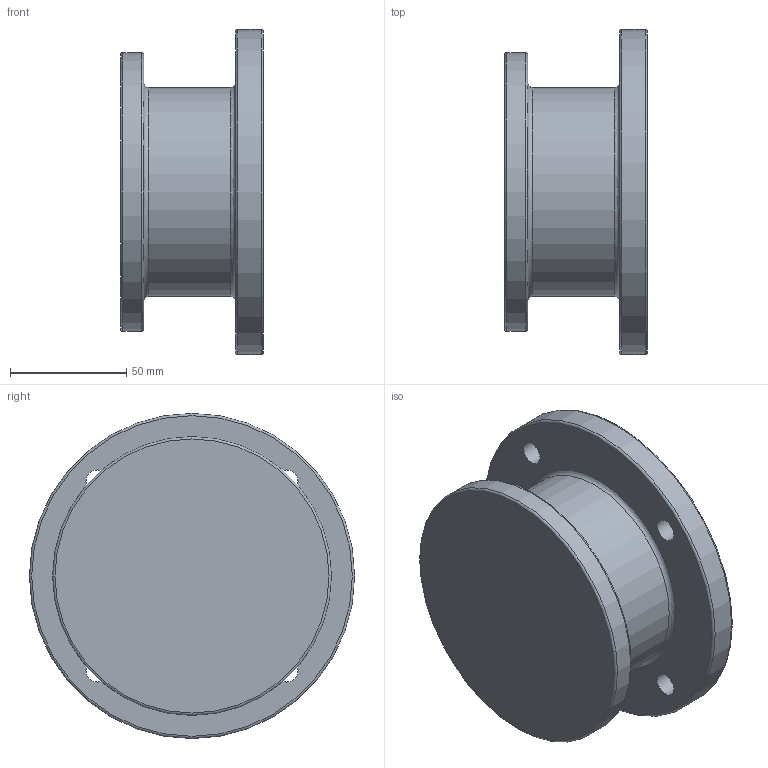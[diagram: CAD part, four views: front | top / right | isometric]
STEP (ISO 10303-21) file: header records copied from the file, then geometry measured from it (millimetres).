
FILE_DESCRIPTION((''),'2;1');
FILE_NAME('D:\PAWEŁ\ZLECENIA\2011 DualSystem\Przekładnie DR\DR30\STEP\63_B5_L61,5.stp','2012-06-11T11:52:08',('admin'),(''),'Autodesk Inventor 2009','Autodesk Inventor 2009','');
FILE_SCHEMA(('AUTOMOTIVE_DESIGN { 1 0 10303 214 1 1 1 1 }'));
Length unit declared in the file: millimetre
Products named in the file (1): 63_B5_L61,5
Bounding box: 61.5 x 140 x 140 mm (x, y, z)
Volume: 305077.5 mm3; surface area: 75936.4 mm2
Topology: 1 solids, 1 shells, 31 faces, 60 edges, 37 vertices
Faces by surface type: plane 12, cylinder 8, bspline 6, torus 5
Full cylindrical faces by diameter (mm): 25 x1, 78 x1, 90 x2, 120 x1, 140 x1
Entity records: 906 total; most frequent: CARTESIAN_POINT 268, DIRECTION 126, ORIENTED_EDGE 86, EDGE_LOOP 62, AXIS2_PLACEMENT_3D 57, EDGE_CURVE 43, VERTEX_POINT 37, FACE_OUTER_BOUND 31
